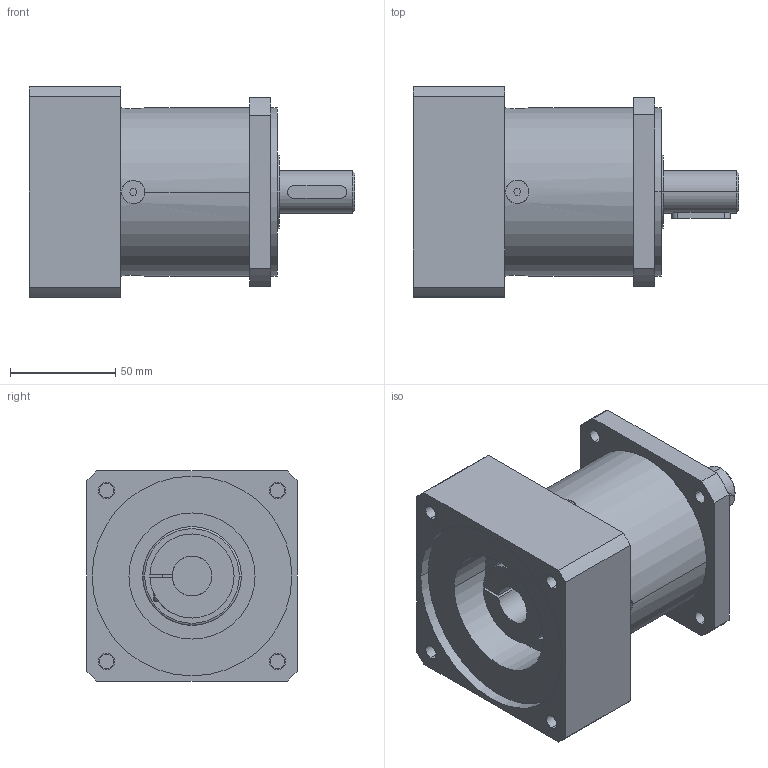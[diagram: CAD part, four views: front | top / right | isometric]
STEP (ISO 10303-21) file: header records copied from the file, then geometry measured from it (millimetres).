
FILE_DESCRIPTION((''),'2;1');
FILE_NAME('MB_PLE_MASTER','2017-02-27T',('agw'),(''),'CREO PARAMETRIC BY PTC INC, 2015290','CREO PARAMETRIC BY PTC INC, 2015290','');
FILE_SCHEMA(('AUTOMOTIVE_DESIGN { 1 0 10303 214 1 1 1 1 }'));
Length unit declared in the file: millimetre
Products named in the file (1): MB_PLE_MASTER
Bounding box: 155 x 100 x 100 mm (x, y, z)
Volume: 751465.8 mm3; surface area: 83796.2 mm2
Topology: 1 solids, 7 shells, 176 faces, 415 edges, 269 vertices
Faces by surface type: plane 84, cylinder 80, torus 6, cone 6
Entity records: 6104 total; most frequent: CARTESIAN_POINT 1051, DIRECTION 923, ORIENTED_EDGE 806, EDGE_CURVE 413, AXIS2_PLACEMENT_3D 344, VERTEX_POINT 269, VECTOR 235, LINE 235
